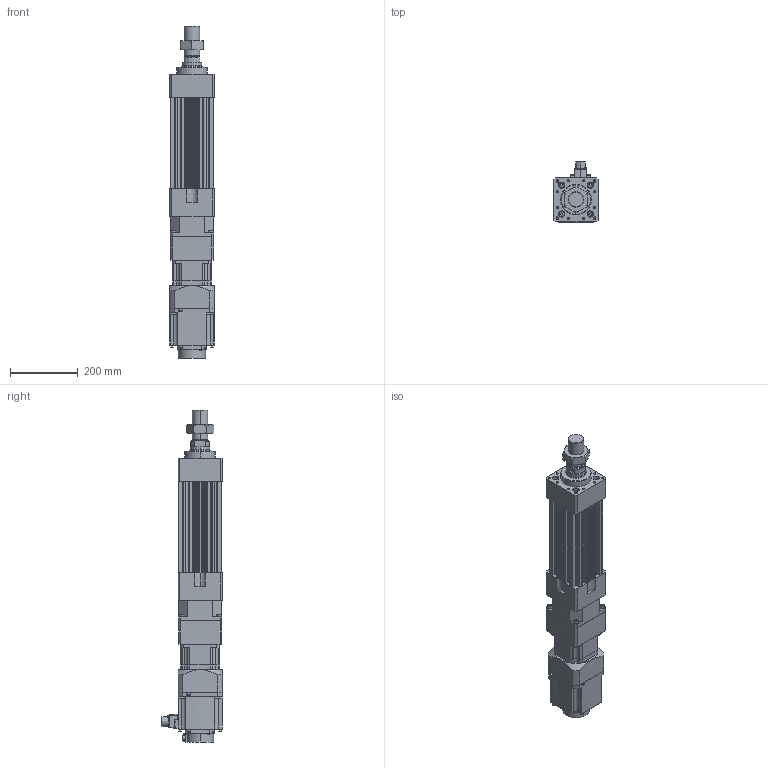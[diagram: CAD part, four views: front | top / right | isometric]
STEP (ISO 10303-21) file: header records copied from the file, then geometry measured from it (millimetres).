
FILE_DESCRIPTION (( 'STEP AP203' ), '1' );
FILE_NAME ('HES130NS(FS)(HS)-S050-W015G00-M.STEP', '2023-01-30T07:45:23', ( 'tms' ), ( '' ), 'SwSTEP 2.0', 'SolidWorks 2013', '' );
FILE_SCHEMA (( 'CONFIG_CONTROL_DESIGN' ));
Length unit declared in the file: millimetre
Products named in the file (8): M45X1.5P; AB115-003[HG-SR152]; HES130 ROD M ST050; P0401400706; HES130NS(FS)(HS)-S050-W015G00-M; HES130-S050-G120; HG-SR152; AB1151
Assembly tree (7 placements, depth 3):
  HES130NS(FS)(HS)-S050-W015G00-M
    HES130-S050-G120
    HES130 ROD M ST050
    M45X1.5P
    AB115-003[HG-SR152]
      AB1151
      P0401400706
    HG-SR152
Bounding box: 130 x 177.49 x 979.5 mm (x, y, z)
Volume: 7546183.5 mm3; surface area: 901723.6 mm2
Topology: 4 solids, 15 shells, 1220 faces, 3076 edges, 1983 vertices
Faces by surface type: cylinder 553, plane 551, cone 104, bspline 8, torus 4
Entity records: 38254 total; most frequent: CARTESIAN_POINT 7242, DIRECTION 6653, ORIENTED_EDGE 6060, EDGE_CURVE 3040, AXIS2_PLACEMENT_3D 2462, VERTEX_POINT 1983, LINE 1729, VECTOR 1729
